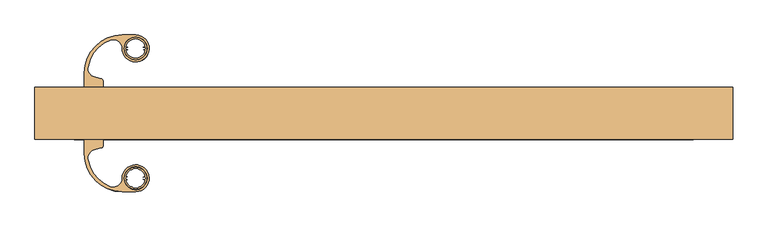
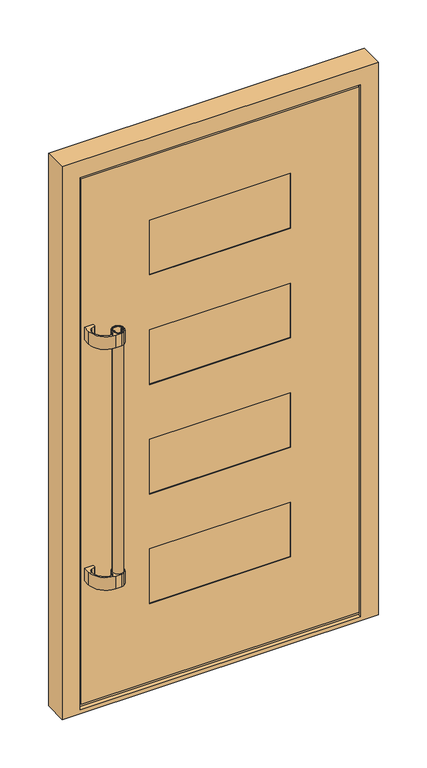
"""IFC4 building model written with IfcOpenShell, lengths in millimetres: door geometry, Jednokrilna vrata : Jednokrilna vrata."""

from ifc_helpers import new_model, si_unit, point, frame, frame_2d, origin, place, context, project, spatial, polyline, circle_curve, trimmed, segment, composite_curve, outline, extrude, faceted_brep, source, transform, mapped, element, save
from ifc_brep_helpers import plane_surface, cylinder_surface, advanced_brep


def door_db977d84(model_context):
    return source(origin(), model_context, "Body", "SolidModel", [
        extrude(outline(composite_curve([segment(trimmed(circle_curve(frame_2d((-419.6507656, -128.9438952)), 19.0), [point((-438.6507656, -128.9438952))], [point((-400.6507656, -128.9438952))], False, "CARTESIAN"), True, "CONTINUOUS"), segment(trimmed(circle_curve(frame_2d((-419.6507656, -128.9438952)), 19.0), [point((-400.6507656, -128.9438952))], [point((-438.6507656, -128.9438952))], False, "CARTESIAN"), True, "CONTINUOUS")], self_intersect=False), holes=[composite_curve([segment(polyline([(-433.0147501, -130.0399107), (-431.8681489, -130.0399107), (-431.8681489, -131.0110599)]), True, "CONTINUOUS"), segment(trimmed(circle_curve(frame_2d((-434.1107656, -128.9438952)), 3.05), [point((-431.8681489, -131.0110599))], [point((-434.1107656, -131.9938952))], False, "CARTESIAN"), True, "CONTINUOUS"), segment(polyline([(-434.1107656, -131.9938952), (-435.3573725, -131.9938952)]), True, "CONTINUOUS"), segment(trimmed(circle_curve(frame_2d((-419.6507656, -128.9438952)), 16.0), [point((-435.3573725, -131.9938952))], [point((-403.9441587, -131.9938952))], True, "CARTESIAN"), True, "CONTINUOUS"), segment(polyline([(-403.9441587, -131.9938952), (-405.1507656, -131.9938952)]), True, "CONTINUOUS"), segment(trimmed(circle_curve(frame_2d((-405.1507656, -128.9438952)), 3.05), [point((-405.1507656, -131.9938952))], [point((-407.3933824, -131.0110599))], False, "CARTESIAN"), True, "CONTINUOUS"), segment(polyline([(-407.3933824, -131.0110599), (-407.3933824, -130.0399107), (-406.2467811, -130.0399107)]), True, "CONTINUOUS"), segment(trimmed(circle_curve(frame_2d((-405.1507656, -128.9438952)), 1.55), [point((-406.2467811, -130.0399107))], [point((-406.2467811, -127.8478797))], True, "CARTESIAN"), True, "CONTINUOUS"), segment(polyline([(-406.2467811, -127.8478797), (-407.3933824, -127.8478797), (-407.3933824, -126.8767304)]), True, "CONTINUOUS"), segment(trimmed(circle_curve(frame_2d((-405.1507656, -128.9438952)), 3.05), [point((-407.3933824, -126.8767304))], [point((-405.1507656, -125.8938952))], False, "CARTESIAN"), True, "CONTINUOUS"), segment(polyline([(-405.1507656, -125.8938952), (-403.9441587, -125.8938952)]), True, "CONTINUOUS"), segment(trimmed(circle_curve(frame_2d((-419.6507656, -128.9438952)), 16.0), [point((-403.9441587, -125.8938952))], [point((-435.3573725, -125.8938952))], True, "CARTESIAN"), True, "CONTINUOUS"), segment(polyline([(-435.3573725, -125.8938952), (-434.1107656, -125.8938952)]), True, "CONTINUOUS"), segment(trimmed(circle_curve(frame_2d((-434.1107656, -128.9438952)), 3.05), [point((-434.1107656, -125.8938952))], [point((-431.8681489, -126.8767304))], False, "CARTESIAN"), True, "CONTINUOUS"), segment(polyline([(-431.8681489, -126.8767304), (-431.8681489, -127.8478797), (-433.0147501, -127.8478797)]), True, "CONTINUOUS"), segment(trimmed(circle_curve(frame_2d((-434.1107656, -128.9438952)), 1.55), [point((-433.0147501, -127.8478797))], [point((-433.0147501, -130.0399107))], True, "CARTESIAN"), True, "CONTINUOUS")], self_intersect=False)]), frame((0.0, 0.0, 527.625), z_axis=(0.0, 0.0, 1.0), x_axis=(1.0, 0.0, 0.0)), (0.0, 0.0, 1.0), 1000.0),
        extrude(outline(composite_curve([segment(polyline([(-501.1976428, -63.4961329), (-474.1976428, -63.4961329), (-474.1976428, -72.7980618)]), True, "CONTINUOUS"), segment(trimmed(circle_curve(frame_2d((-479.1976428, -72.7980618)), 5.0), [point((-474.1976428, -72.7980618))], [point((-477.9035475, -77.6276909))], False, "CARTESIAN"), True, "CONTINUOUS"), segment(polyline([(-477.9035475, -77.6276909), (-489.4338947, -80.7172381)]), True, "CONTINUOUS"), segment(trimmed(circle_curve(frame_2d((-485.5506214, -95.2098114)), 15.0038159), [point((-489.4338947, -80.7172381))], [point((-500.2654887, -98.1401991))], True, "CARTESIAN"), True, "CONTINUOUS"), segment(trimmed(circle_curve(frame_2d((-442.2699801, -87.7545934)), 58.9180773), [point((-500.2654887, -98.1401991))], [point((-462.5686195, -143.0655784))], True, "CARTESIAN"), True, "CONTINUOUS"), segment(trimmed(circle_curve(frame_2d((-457.4007573, -128.9838687)), 15.0000449), [point((-462.5686195, -143.0655784))], [point((-442.4007656, -128.9438952))], True, "CARTESIAN"), True, "CONTINUOUS"), segment(trimmed(circle_curve(frame_2d((-419.769133, -128.883584)), 22.631713), [point((-442.4007656, -128.9438952))], [point((-433.0228801, -110.5387586))], False, "CARTESIAN"), True, "CONTINUOUS"), segment(trimmed(circle_curve(frame_2d((-419.6558242, -129.0404174)), 22.8251959), [point((-433.0228801, -110.5387586))], [point((-404.4280443, -112.0373504))], False, "CARTESIAN"), True, "CONTINUOUS"), segment(trimmed(circle_curve(frame_2d((-419.5730284, -128.9479692)), 22.7010919), [point((-404.4280443, -112.0373504))], [point((-406.2786511, -147.3490318))], False, "CARTESIAN"), True, "CONTINUOUS"), segment(trimmed(circle_curve(frame_2d((-419.7149101, -128.7515875)), 22.9433648), [point((-406.2786511, -147.3490318))], [point((-419.2964649, -151.6911361))], False, "CARTESIAN"), True, "CONTINUOUS"), segment(polyline([(-419.2964649, -151.6911361), (-442.2004018, -151.6911361)]), True, "CONTINUOUS"), segment(trimmed(circle_curve(frame_2d((-442.2004018, -87.6938952)), 63.997241), [point((-442.2004018, -151.6911361))], [point((-506.1976428, -87.6938952))], False, "CARTESIAN"), True, "CONTINUOUS"), segment(polyline([(-506.1976428, -87.6938952), (-506.1976428, -63.4961329), (-501.1976428, -63.4961329)]), True, "CONTINUOUS")], self_intersect=False), holes=[composite_curve([segment(trimmed(circle_curve(frame_2d((-419.6507656, -128.9438952)), 19.25), [point((-438.9007656, -128.9438952))], [point((-400.4007656, -128.9438952))], True, "CARTESIAN"), True, "CONTINUOUS"), segment(trimmed(circle_curve(frame_2d((-419.6507656, -128.9438952)), 19.25), [point((-400.4007656, -128.9438952))], [point((-438.9007656, -128.9438952))], True, "CARTESIAN"), True, "CONTINUOUS")], self_intersect=False)]), frame((0.0, 0.0, 1477.625), z_axis=(0.0, 0.0, 1.0), x_axis=(1.0, 0.0, 0.0)), (0.0, 0.0, 1.0), 50.0),
        extrude(outline(composite_curve([segment(polyline([(-501.1976428, -63.4961329), (-474.1976428, -63.4961329), (-474.1976428, -72.7980618)]), True, "CONTINUOUS"), segment(trimmed(circle_curve(frame_2d((-479.1976428, -72.7980618)), 5.0), [point((-474.1976428, -72.7980618))], [point((-477.9035475, -77.6276909))], False, "CARTESIAN"), True, "CONTINUOUS"), segment(polyline([(-477.9035475, -77.6276909), (-489.4338947, -80.7172381)]), True, "CONTINUOUS"), segment(trimmed(circle_curve(frame_2d((-485.5506214, -95.2098114)), 15.0038159), [point((-489.4338947, -80.7172381))], [point((-500.2654887, -98.1401991))], True, "CARTESIAN"), True, "CONTINUOUS"), segment(trimmed(circle_curve(frame_2d((-442.2699801, -87.7545934)), 58.9180773), [point((-500.2654887, -98.1401991))], [point((-462.5686195, -143.0655784))], True, "CARTESIAN"), True, "CONTINUOUS"), segment(trimmed(circle_curve(frame_2d((-457.4007573, -128.9838687)), 15.0000449), [point((-462.5686195, -143.0655784))], [point((-442.4007656, -128.9438952))], True, "CARTESIAN"), True, "CONTINUOUS"), segment(trimmed(circle_curve(frame_2d((-419.769133, -128.883584)), 22.631713), [point((-442.4007656, -128.9438952))], [point((-433.0228801, -110.5387586))], False, "CARTESIAN"), True, "CONTINUOUS"), segment(trimmed(circle_curve(frame_2d((-419.6558242, -129.0404174)), 22.8251959), [point((-433.0228801, -110.5387586))], [point((-404.4280443, -112.0373504))], False, "CARTESIAN"), True, "CONTINUOUS"), segment(trimmed(circle_curve(frame_2d((-419.5730284, -128.9479692)), 22.7010919), [point((-404.4280443, -112.0373504))], [point((-406.2786511, -147.3490318))], False, "CARTESIAN"), True, "CONTINUOUS"), segment(trimmed(circle_curve(frame_2d((-419.7149101, -128.7515875)), 22.9433648), [point((-406.2786511, -147.3490318))], [point((-419.2964649, -151.6911361))], False, "CARTESIAN"), True, "CONTINUOUS"), segment(polyline([(-419.2964649, -151.6911361), (-442.2004018, -151.6911361)]), True, "CONTINUOUS"), segment(trimmed(circle_curve(frame_2d((-442.2004018, -87.6938952)), 63.997241), [point((-442.2004018, -151.6911361))], [point((-506.1976428, -87.6938952))], False, "CARTESIAN"), True, "CONTINUOUS"), segment(polyline([(-506.1976428, -87.6938952), (-506.1976428, -63.4961329), (-501.1976428, -63.4961329)]), True, "CONTINUOUS")], self_intersect=False), holes=[composite_curve([segment(trimmed(circle_curve(frame_2d((-419.6507656, -128.9438952)), 19.25), [point((-438.9007656, -128.9438952))], [point((-400.4007656, -128.9438952))], True, "CARTESIAN"), True, "CONTINUOUS"), segment(trimmed(circle_curve(frame_2d((-419.6507656, -128.9438952)), 19.25), [point((-400.4007656, -128.9438952))], [point((-438.9007656, -128.9438952))], True, "CARTESIAN"), True, "CONTINUOUS")], self_intersect=False)]), frame((0.0, 0.0, 527.625), z_axis=(0.0, 0.0, 1.0), x_axis=(1.0, 0.0, 0.0)), (0.0, 0.0, 1.0), 50.0),
        extrude(outline(composite_curve([segment(trimmed(circle_curve(frame_2d((-419.6507656, 90.4477622)), 19.0), [point((-438.6507656, 90.4477622))], [point((-400.6507656, 90.4477622))], False, "CARTESIAN"), True, "CONTINUOUS"), segment(trimmed(circle_curve(frame_2d((-419.6507656, 90.4477622)), 19.0), [point((-400.6507656, 90.4477622))], [point((-438.6507656, 90.4477622))], False, "CARTESIAN"), True, "CONTINUOUS")], self_intersect=False), holes=[composite_curve([segment(trimmed(circle_curve(frame_2d((-434.1107656, 90.4477622)), 1.55), [point((-433.0147501, 91.5437777))], [point((-433.0147501, 89.3517467))], True, "CARTESIAN"), True, "CONTINUOUS"), segment(polyline([(-433.0147501, 89.3517467), (-431.8681489, 89.3517467), (-431.8681489, 88.3805975)]), True, "CONTINUOUS"), segment(trimmed(circle_curve(frame_2d((-434.1107656, 90.4477622)), 3.05), [point((-431.8681489, 88.3805975))], [point((-434.1107656, 87.3977622))], False, "CARTESIAN"), True, "CONTINUOUS"), segment(polyline([(-434.1107656, 87.3977622), (-435.3573725, 87.3977622)]), True, "CONTINUOUS"), segment(trimmed(circle_curve(frame_2d((-419.6507656, 90.4477622)), 16.0), [point((-435.3573725, 87.3977622))], [point((-403.9441587, 87.3977622))], True, "CARTESIAN"), True, "CONTINUOUS"), segment(polyline([(-403.9441587, 87.3977622), (-405.1507656, 87.3977622)]), True, "CONTINUOUS"), segment(trimmed(circle_curve(frame_2d((-405.1507656, 90.4477622)), 3.05), [point((-405.1507656, 87.3977622))], [point((-407.3933824, 88.3805975))], False, "CARTESIAN"), True, "CONTINUOUS"), segment(polyline([(-407.3933824, 88.3805975), (-407.3933824, 89.3517467), (-406.2467811, 89.3517467)]), True, "CONTINUOUS"), segment(trimmed(circle_curve(frame_2d((-405.1507656, 90.4477622)), 1.55), [point((-406.2467811, 89.3517467))], [point((-406.2467811, 91.5437777))], True, "CARTESIAN"), True, "CONTINUOUS"), segment(polyline([(-406.2467811, 91.5437777), (-407.3933824, 91.5437777), (-407.3933824, 92.514927)]), True, "CONTINUOUS"), segment(trimmed(circle_curve(frame_2d((-405.1507656, 90.4477622)), 3.05), [point((-407.3933824, 92.514927))], [point((-405.1507656, 93.4977622))], False, "CARTESIAN"), True, "CONTINUOUS"), segment(polyline([(-405.1507656, 93.4977622), (-403.9441587, 93.4977622)]), True, "CONTINUOUS"), segment(trimmed(circle_curve(frame_2d((-419.6507656, 90.4477622)), 16.0), [point((-403.9441587, 93.4977622))], [point((-435.3573725, 93.4977622))], True, "CARTESIAN"), True, "CONTINUOUS"), segment(polyline([(-435.3573725, 93.4977622), (-434.1107656, 93.4977622)]), True, "CONTINUOUS"), segment(trimmed(circle_curve(frame_2d((-434.1107656, 90.4477622)), 3.05), [point((-434.1107656, 93.4977622))], [point((-431.8681489, 92.514927))], False, "CARTESIAN"), True, "CONTINUOUS"), segment(polyline([(-431.8681489, 92.514927), (-431.8681489, 91.5437777), (-433.0147501, 91.5437777)]), True, "CONTINUOUS")], self_intersect=False)]), frame((0.0, 0.0, 527.625), z_axis=(0.0, 0.0, 1.0), x_axis=(1.0, 0.0, 0.0)), (0.0, 0.0, 1.0), 1000.0),
        extrude(outline(composite_curve([segment(polyline([(-501.1976428, 25.0), (-506.1976428, 25.0), (-506.1976428, 49.1977622)]), True, "CONTINUOUS"), segment(trimmed(circle_curve(frame_2d((-442.2004018, 49.1977622)), 63.997241), [point((-506.1976428, 49.1977622))], [point((-442.2004018, 113.1950032))], False, "CARTESIAN"), True, "CONTINUOUS"), segment(polyline([(-442.2004018, 113.1950032), (-419.2964649, 113.1950032)]), True, "CONTINUOUS"), segment(trimmed(circle_curve(frame_2d((-419.7149101, 90.2554545)), 22.9433648), [point((-419.2964649, 113.1950032))], [point((-406.2786511, 108.8528989))], False, "CARTESIAN"), True, "CONTINUOUS"), segment(trimmed(circle_curve(frame_2d((-419.5730284, 90.4518363)), 22.7010919), [point((-406.2786511, 108.8528989))], [point((-404.4280443, 73.5412175))], False, "CARTESIAN"), True, "CONTINUOUS"), segment(trimmed(circle_curve(frame_2d((-419.6558242, 90.5442845)), 22.8251959), [point((-404.4280443, 73.5412175))], [point((-433.0228801, 72.0426256))], False, "CARTESIAN"), True, "CONTINUOUS"), segment(trimmed(circle_curve(frame_2d((-419.769133, 90.3874511)), 22.631713), [point((-433.0228801, 72.0426256))], [point((-442.4007656, 90.4477622))], False, "CARTESIAN"), True, "CONTINUOUS"), segment(trimmed(circle_curve(frame_2d((-457.4007573, 90.4877358)), 15.0000449), [point((-442.4007656, 90.4477622))], [point((-462.5686195, 104.5694455))], True, "CARTESIAN"), True, "CONTINUOUS"), segment(trimmed(circle_curve(frame_2d((-442.2699801, 49.2584604)), 58.9180773), [point((-462.5686195, 104.5694455))], [point((-500.2654887, 59.6440661))], True, "CARTESIAN"), True, "CONTINUOUS"), segment(trimmed(circle_curve(frame_2d((-485.5506214, 56.7136785)), 15.0038159), [point((-500.2654887, 59.6440661))], [point((-489.4338947, 42.2211052))], True, "CARTESIAN"), True, "CONTINUOUS"), segment(polyline([(-489.4338947, 42.2211052), (-477.9035475, 39.131558)]), True, "CONTINUOUS"), segment(trimmed(circle_curve(frame_2d((-479.1976428, 34.3019289)), 5.0), [point((-477.9035475, 39.131558))], [point((-474.1976428, 34.3019289))], False, "CARTESIAN"), True, "CONTINUOUS"), segment(polyline([(-474.1976428, 34.3019289), (-474.1976428, 25.0), (-501.1976428, 25.0)]), True, "CONTINUOUS")], self_intersect=False), holes=[composite_curve([segment(trimmed(circle_curve(frame_2d((-419.6507656, 90.4477622)), 19.25), [point((-438.9007656, 90.4477622))], [point((-400.4007656, 90.4477622))], True, "CARTESIAN"), True, "CONTINUOUS"), segment(trimmed(circle_curve(frame_2d((-419.6507656, 90.4477622)), 19.25), [point((-400.4007656, 90.4477622))], [point((-438.9007656, 90.4477622))], True, "CARTESIAN"), True, "CONTINUOUS")], self_intersect=False)]), frame((0.0, 0.0, 1477.625), z_axis=(0.0, 0.0, 1.0), x_axis=(1.0, 0.0, 0.0)), (0.0, 0.0, 1.0), 50.0),
        extrude(outline(composite_curve([segment(polyline([(-501.1976428, 25.0), (-506.1976428, 25.0), (-506.1976428, 49.1977622)]), True, "CONTINUOUS"), segment(trimmed(circle_curve(frame_2d((-442.2004018, 49.1977622)), 63.997241), [point((-506.1976428, 49.1977622))], [point((-442.2004018, 113.1950032))], False, "CARTESIAN"), True, "CONTINUOUS"), segment(polyline([(-442.2004018, 113.1950032), (-419.2964649, 113.1950032)]), True, "CONTINUOUS"), segment(trimmed(circle_curve(frame_2d((-419.7149101, 90.2554545)), 22.9433648), [point((-419.2964649, 113.1950032))], [point((-406.2786511, 108.8528989))], False, "CARTESIAN"), True, "CONTINUOUS"), segment(trimmed(circle_curve(frame_2d((-419.5730284, 90.4518363)), 22.7010919), [point((-406.2786511, 108.8528989))], [point((-404.4280443, 73.5412175))], False, "CARTESIAN"), True, "CONTINUOUS"), segment(trimmed(circle_curve(frame_2d((-419.6558242, 90.5442845)), 22.8251959), [point((-404.4280443, 73.5412175))], [point((-433.0228801, 72.0426256))], False, "CARTESIAN"), True, "CONTINUOUS"), segment(trimmed(circle_curve(frame_2d((-419.769133, 90.3874511)), 22.631713), [point((-433.0228801, 72.0426256))], [point((-442.4007656, 90.4477622))], False, "CARTESIAN"), True, "CONTINUOUS"), segment(trimmed(circle_curve(frame_2d((-457.4007573, 90.4877358)), 15.0000449), [point((-442.4007656, 90.4477622))], [point((-462.5686195, 104.5694455))], True, "CARTESIAN"), True, "CONTINUOUS"), segment(trimmed(circle_curve(frame_2d((-442.2699801, 49.2584604)), 58.9180773), [point((-462.5686195, 104.5694455))], [point((-500.2654887, 59.6440661))], True, "CARTESIAN"), True, "CONTINUOUS"), segment(trimmed(circle_curve(frame_2d((-485.5506214, 56.7136785)), 15.0038159), [point((-500.2654887, 59.6440661))], [point((-489.4338947, 42.2211052))], True, "CARTESIAN"), True, "CONTINUOUS"), segment(polyline([(-489.4338947, 42.2211052), (-477.9035475, 39.131558)]), True, "CONTINUOUS"), segment(trimmed(circle_curve(frame_2d((-479.1976428, 34.3019289)), 5.0), [point((-477.9035475, 39.131558))], [point((-474.1976428, 34.3019289))], False, "CARTESIAN"), True, "CONTINUOUS"), segment(polyline([(-474.1976428, 34.3019289), (-474.1976428, 25.0), (-501.1976428, 25.0)]), True, "CONTINUOUS")], self_intersect=False), holes=[composite_curve([segment(trimmed(circle_curve(frame_2d((-419.6507656, 90.4477622)), 19.25), [point((-438.9007656, 90.4477622))], [point((-400.4007656, 90.4477622))], True, "CARTESIAN"), True, "CONTINUOUS"), segment(trimmed(circle_curve(frame_2d((-419.6507656, 90.4477622)), 19.25), [point((-400.4007656, 90.4477622))], [point((-438.9007656, 90.4477622))], True, "CARTESIAN"), True, "CONTINUOUS")], self_intersect=False)]), frame((0.0, 0.0, 527.625), z_axis=(0.0, 0.0, 1.0), x_axis=(1.0, 0.0, 0.0)), (0.0, 0.0, 1.0), 50.0),
        extrude(outline(polyline([(263.0017189, -59.8961329), (-263.0017189, -59.8961329), (-263.0017189, 21.5), (263.0017189, 21.5), (263.0017189, -59.8961329)])), frame((0.0, 0.0, 184.2503392), z_axis=(0.0, 0.0, 1.0), x_axis=(1.0, 0.0, 0.0)), (0.0, 0.0, 1.0), 1742.3567656),
        faceted_brep([(518.4978035, -55.0006316, 2118.4978035), (518.4978035, -63.4961329, 2118.4978035), (518.4978035, -63.4961329, 45.0021965), (518.4978035, -55.0006316, 45.0021965), (532.4976416, -55.0006316, 2132.4976416), (-532.4976416, -55.0006316, 2132.4976416), (-532.4976416, -55.0006316, 31.0023584), (532.4976416, -55.0006316, 31.0023584), (-518.4978035, -55.0006316, 45.0021965), (-518.4978035, -55.0006316, 2118.4978035), (-518.4978035, -63.4961329, 45.0021965), (463.0017189, 21.5, 2063.0017189), (463.0017189, 21.5, 100.4982811), (463.0017189, -59.8961329, 100.4982811), (463.0017189, -59.8961329, 2063.0017189), (-463.0017189, 21.5, 100.4982811), (-463.0017189, -59.8961329, 100.4982811), (543.4976428, 13.0033697, 20.0023572), (543.4976428, 25.0, 20.0), (543.4976428, 25.0, 2143.5), (543.4976428, 13.0033697, 2143.4976428), (-543.4976428, 13.0033697, 20.0023572), (-543.4976428, 25.0, 20.0023572), (-543.4976428, 13.0033697, 2143.4976428), (532.4976416, 13.0033697, 31.0023584), (-532.4976416, 13.0033697, 31.0023584), (-532.4976416, 13.0033697, 2132.4976416), (532.4976416, 13.0033697, 2132.4976416), (-518.4978035, -63.4961329, 2118.4978035), (-463.0017189, 21.5, 2063.0017189), (-463.0017189, -59.8961329, 2063.0017189), (-543.4976428, 25.0, 2143.5), (-263.0017189, -59.8961329, 1433.01875), (-263.0017189, -59.8961329, 1216.91), (263.0017189, -59.8961329, 1216.91), (263.0017189, -59.8961329, 1433.01875), (-263.0017189, -59.8961329, 1000.80125), (-263.0017189, -59.8961329, 784.6925), (263.0017189, -59.8961329, 784.6925), (263.0017189, -59.8961329, 1000.80125), (-263.0017189, -59.8961329, 568.58375), (-263.0017189, -59.8961329, 352.475), (263.0017189, -59.8961329, 352.475), (263.0017189, -59.8961329, 568.58375), (-263.0017189, -59.8961329, 1865.23625), (-263.0017189, -59.8961329, 1649.1275), (263.0017189, -59.8961329, 1649.1275), (263.0017189, -59.8961329, 1865.23625), (263.0017189, -63.4961329, 1433.01875), (263.0017189, -63.4961329, 1216.91), (-263.0017189, -63.4961329, 1216.91), (-263.0017189, -63.4961329, 1433.01875), (263.0017189, -63.4961329, 1000.80125), (263.0017189, -63.4961329, 784.6925), (-263.0017189, -63.4961329, 784.6925), (-263.0017189, -63.4961329, 1000.80125), (263.0017189, -63.4961329, 568.58375), (263.0017189, -63.4961329, 352.475), (-263.0017189, -63.4961329, 352.475), (-263.0017189, -63.4961329, 568.58375), (263.0017189, -63.4961329, 1865.23625), (263.0017189, -63.4961329, 1649.1275), (-263.0017189, -63.4961329, 1649.1275), (-263.0017189, -63.4961329, 1865.23625), (263.0017189, 21.5, 1433.01875), (263.0017189, 21.5, 1216.91), (-263.0017189, 21.5, 1216.91), (-263.0017189, 21.5, 1433.01875), (263.0017189, 21.5, 1000.80125), (263.0017189, 21.5, 784.6925), (-263.0017189, 21.5, 784.6925), (-263.0017189, 21.5, 1000.80125), (263.0017189, 21.5, 568.58375), (263.0017189, 21.5, 352.475), (-263.0017189, 21.5, 352.475), (-263.0017189, 21.5, 568.58375), (263.0017189, 21.5, 1865.23625), (263.0017189, 21.5, 1649.1275), (-263.0017189, 21.5, 1649.1275), (-263.0017189, 21.5, 1865.23625), (-263.0017189, 25.0, 1433.01875), (-263.0017189, 25.0, 1216.91), (263.0017189, 25.0, 1216.91), (263.0017189, 25.0, 1433.01875), (-263.0017189, 25.0, 1000.80125), (-263.0017189, 25.0, 784.6925), (263.0017189, 25.0, 784.6925), (263.0017189, 25.0, 1000.80125), (-263.0017189, 25.0, 568.58375), (-263.0017189, 25.0, 352.475), (263.0017189, 25.0, 352.475), (263.0017189, 25.0, 568.58375), (-263.0017189, 25.0, 1865.23625), (-263.0017189, 25.0, 1649.1275), (263.0017189, 25.0, 1649.1275), (263.0017189, 25.0, 1865.23625)], [[[0, 1, 2, 3]], [[4, 5, 6, 7], [3, 8, 9, 0]], [[3, 2, 10, 8]], [[11, 12, 13, 14]], [[12, 15, 16, 13]], [[17, 18, 19, 20]], [[21, 22, 18, 17]], [[20, 23, 21, 17], [24, 25, 26, 27]], [[27, 4, 7, 24]], [[7, 6, 25, 24]], [[8, 10, 28, 9]], [[15, 29, 30, 16]], [[23, 31, 22, 21]], [[6, 5, 26, 25]], [[9, 28, 1, 0]], [[14, 30, 29, 11]], [[20, 19, 31, 23]], [[27, 26, 5, 4]], [[13, 16, 30, 14], [32, 33, 34, 35], [36, 37, 38, 39], [40, 41, 42, 43], [44, 45, 46, 47]], [[1, 28, 10, 2], [48, 49, 50, 51], [52, 53, 54, 55], [56, 57, 58, 59], [60, 61, 62, 63]], [[11, 29, 15, 12], [64, 65, 66, 67], [68, 69, 70, 71], [72, 73, 74, 75], [76, 77, 78, 79]], [[19, 18, 22, 31], [80, 81, 82, 83], [84, 85, 86, 87], [88, 89, 90, 91], [92, 93, 94, 95]], [[48, 51, 32, 35]], [[64, 67, 80, 83]], [[35, 34, 49, 48]], [[83, 82, 65, 64]], [[51, 50, 33, 32]], [[67, 66, 81, 80]], [[50, 49, 34, 33]], [[66, 65, 82, 81]], [[52, 55, 36, 39]], [[68, 71, 84, 87]], [[39, 38, 53, 52]], [[87, 86, 69, 68]], [[54, 53, 38, 37]], [[70, 69, 86, 85]], [[55, 54, 37, 36]], [[71, 70, 85, 84]], [[56, 59, 40, 43]], [[72, 75, 88, 91]], [[43, 42, 57, 56]], [[91, 90, 73, 72]], [[58, 57, 42, 41]], [[74, 73, 90, 89]], [[59, 58, 41, 40]], [[75, 74, 89, 88]], [[60, 63, 44, 47]], [[76, 79, 92, 95]], [[47, 46, 61, 60]], [[95, 94, 77, 76]], [[63, 62, 45, 44]], [[79, 78, 93, 92]], [[62, 61, 46, 45]], [[78, 77, 94, 93]]]),
        advanced_brep(
        [(-548.4976428, 12.9989266, 10.0), (548.4976428, 12.9989266, 10.0), (548.4976428, 25.0, 10.0), (590.0, 25.0, 10.0), (590.0, -63.4929267, 10.0), (-590.0, -63.4929267, 10.0), (-590.0, 25.0, 10.0), (-548.4976428, 25.0, 10.0), (-548.4976428, 25.0, 2148.4976428), (-548.4976428, 12.9989266, 2148.4976428), (-590.0, 25.0, 2190.0), (590.0, 25.0, 2190.0), (548.4976428, 25.0, 2148.4976428), (-590.0, -63.4929267, 2190.0), (590.0, -63.4929267, 2190.0), (-523.5001132, -63.4929267, 2123.5001132), (523.5001132, -63.4929267, 2123.5001132), (523.5001132, -63.4929267, 25.6983046), (-523.5001132, -63.4929267, 25.6983046), (548.4976428, 12.9989266, 2148.4976428), (538.997643, 12.9989266, 2138.997643), (-538.997643, 12.9989266, 2138.997643), (-538.997643, 12.9989266, 25.5020091), (538.997643, 12.9989266, 25.5020091), (-523.5001132, -55.091238, 2123.5001132), (-523.5001132, -55.091238, 27.2137298), (-538.997643, -55.091238, 27.2137298), (-538.997643, -55.091238, 2138.997643), (538.997643, -55.091238, 2138.997643), (538.997643, -55.091238, 27.2137298), (523.5001132, -55.091238, 27.2137298), (523.5001132, -55.091238, 2123.5001132), (538.997643, -48.6386736, 28.3775885), (-538.997643, -48.6386736, 28.3775885), (538.997643, -19.5852901, 25.5020091), (538.997643, -26.3346386, 29.5983726), (538.997643, -28.1482433, 30.02273), (-538.997643, -28.1482433, 30.02273), (-538.997643, -26.3346386, 29.5983726), (-538.997643, -19.5852901, 25.5020091)],
        [
            (0, 1),
            (1, 2),
            (2, 3),
            (3, 4),
            (4, 5),
            (5, 6),
            (6, 7),
            (7, 0),
            (7, 8),
            (8, 9),
            (9, 0),
            (6, 10),
            (10, 11),
            (11, 3),
            (2, 12),
            (12, 8),
            (13, 10),
            (5, 13),
            (4, 14),
            (14, 13),
            (15, 16),
            (16, 17),
            (17, 18),
            (18, 15),
            (11, 14),
            (1, 19),
            (19, 12),
            (9, 19),
            (20, 21),
            (21, 22),
            (22, 23),
            (23, 20),
            (24, 25),
            (25, 26),
            (26, 27),
            (27, 28),
            (28, 29),
            (29, 30),
            (30, 31),
            (31, 24),
            (18, 25),
            (24, 15),
            (17, 30),
            (29, 32),
            (32, 33),
            (33, 26),
            (16, 31),
            (23, 34),
            (34, 35),
            (35, 36, circle_curve(frame((538.997643, -27.891169, 27.0337648), z_axis=(1.0, 0.0, 0.0), x_axis=(0.0, 0.5188434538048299, 0.8548692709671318)), 3.0)),
            (36, 32),
            (28, 20),
            (33, 37),
            (37, 38, circle_curve(frame((-538.997643, -27.891169, 27.0337648), z_axis=(-1.0, 0.0, 0.0), x_axis=(0.0, 0.5188434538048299, 0.8548692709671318)), 3.0)),
            (38, 39),
            (39, 22),
            (21, 27),
            (39, 34),
            (38, 35),
            (37, 36),
        ],
        [
            plane_surface(frame((-590.0, 25.0, 10.0), z_axis=(0.0, 0.0, -1.0), x_axis=(0.0, 1.0, 0.0))),
            plane_surface(frame((-548.4976428, 12.9989266, 10.0), z_axis=(1.0, 0.0, 0.0), x_axis=(0.0, 0.0, 1.0))),
            plane_surface(frame((-548.4976428, 25.0, 10.0), z_axis=(0.0, 1.0, 0.0), x_axis=(0.0, 0.0, 1.0))),
            plane_surface(frame((-590.0, 25.0, 10.0), z_axis=(-1.0, 0.0, 0.0), x_axis=(0.0, 0.0, 1.0))),
            plane_surface(frame((-590.0, -63.4929267, 10.0), z_axis=(0.0, -1.0, 0.0), x_axis=(0.0, 0.0, 1.0))),
            plane_surface(frame((590.0, 25.0, 2190.0), z_axis=(1.0, 0.0, 0.0), x_axis=(0.0, 0.0, -1.0))),
            plane_surface(frame((548.4976428, 12.9989266, 2148.4976428), z_axis=(-1.0, 0.0, 0.0), x_axis=(0.0, 0.0, -1.0))),
            plane_surface(frame((-538.997643, 12.9989266, 10.0), z_axis=(0.0, 1.0, 0.0), x_axis=(0.0, 0.0, 1.0))),
            plane_surface(frame((-523.5001132, -55.091238, 10.0), z_axis=(0.0, 1.0, 0.0), x_axis=(0.0, 0.0, 1.0))),
            plane_surface(frame((-523.5001132, -63.4929267, 10.0), z_axis=(1.0, 0.0, 0.0), x_axis=(0.0, 0.0, 1.0))),
            plane_surface(frame((-590.0, -48.6386736, 28.3775885), z_axis=(0.0, -0.1775071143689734, 0.9841195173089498), x_axis=(1.0, 0.0, 0.0))),
            plane_surface(frame((523.5001132, -63.4929267, 2123.5001132), z_axis=(-1.0, 0.0, 0.0), x_axis=(0.0, 0.0, -1.0))),
            plane_surface(frame((538.997643, -55.091238, 2138.997643), z_axis=(-1.0, 0.0, 0.0), x_axis=(0.0, 0.0, -1.0))),
            plane_surface(frame((-538.997643, -55.091238, 10.0), z_axis=(1.0, 0.0, 0.0), x_axis=(0.0, 0.0, 1.0))),
            plane_surface(frame((-590.0, 13.0023491, 25.5020091), z_axis=(0.0, 0.0, 1.0), x_axis=(1.0, 0.0, 0.0))),
            plane_surface(frame((-590.0, -19.5852901, 25.5020091), z_axis=(0.0, 0.5188434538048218, 0.8548692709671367), x_axis=(1.0, 0.0, 0.0))),
            cylinder_surface(frame((-590.0, -27.891169, 27.0337648), z_axis=(-1.0, 0.0, 0.0), x_axis=(0.0, 0.5188434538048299, 0.8548692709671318)), 3.0),
            plane_surface(frame((-590.0, -28.1482433, 30.02273), z_axis=(0.0, -0.08003075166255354, 0.9967923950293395), x_axis=(1.0, 0.0, 0.0))),
            plane_surface(frame((-523.5001132, -63.4929267, 2123.5001132), z_axis=(0.0, 0.0, -1.0), x_axis=(1.0, 0.0, 0.0))),
            plane_surface(frame((-538.997643, -55.091238, 2138.997643), z_axis=(0.0, 0.0, -1.0), x_axis=(1.0, 0.0, 0.0))),
            plane_surface(frame((-548.4976428, 12.9989266, 2148.4976428), z_axis=(0.0, 0.0, -1.0), x_axis=(1.0, 0.0, 0.0))),
            plane_surface(frame((-590.0, 25.0, 2190.0), z_axis=(0.0, 0.0, 1.0), x_axis=(1.0, 0.0, 0.0))),
        ],
        [
            (0, [[1, 2, 3, 4, 5, 6, 7, 8]]),
            (1, [[9, 10, 11, -8]]),
            (2, [[12, 13, 14, -3, 15, 16, -9, -7]]),
            (3, [[17, -12, -6, 18]]),
            (4, [[19, 20, -18, -5], [21, 22, 23, 24]]),
            (5, [[25, -19, -4, -14]]),
            (6, [[-2, 26, 27, -15]]),
            (7, [[-11, 28, -26, -1], [29, 30, 31, 32]]),
            (8, [[33, 34, 35, 36, 37, 38, 39, 40]]),
            (9, [[-24, 41, -33, 42]]),
            (10, [[43, -38, 44, 45, 46, -34, -41, -23]]),
            (11, [[-39, -43, -22, 47]]),
            (12, [[-32, 48, 49, 50, 51, -44, -37, 52]]),
            (13, [[-35, -46, 53, 54, 55, 56, -30, 57]]),
            (14, [[-56, 58, -48, -31]]),
            (15, [[-55, 59, -49, -58]]),
            (16, [[-50, -59, -54, 60]]),
            (17, [[-53, -45, -51, -60]]),
            (18, [[-40, -47, -21, -42]]),
            (19, [[-57, -29, -52, -36]]),
            (20, [[-10, -16, -27, -28]]),
            (21, [[-17, -20, -25, -13]]),
        ],
    ),
    ])


if __name__ == "__main__":
    model = new_model("IFC4")
    model_context = context("Model", 3, world=origin())
    ifc_project = project(units=[si_unit("LENGTHUNIT", "METRE", prefix="MILLI")], contexts=[model_context])
    site = spatial("IfcSite", under=ifc_project)
    building = spatial("IfcBuilding", under=site)
    placement = place(None, origin())
    door_shape = door_db977d84(model_context)
    element("IfcDoor", 1, ObjectType="Jednokrilna vrata : Jednokrilna vrata", at=placement, inside=building, context=model_context, shape_type="MappedRepresentation", body=[
        mapped(door_shape, transform((0.0, 0.0, 0.0), x_axis=(1.0, 0.0, 0.0), y_axis=(0.0, 1.0, 0.0), z_axis=(0.0, 0.0, 1.0))),
    ])
    save(model, "model.ifc")
